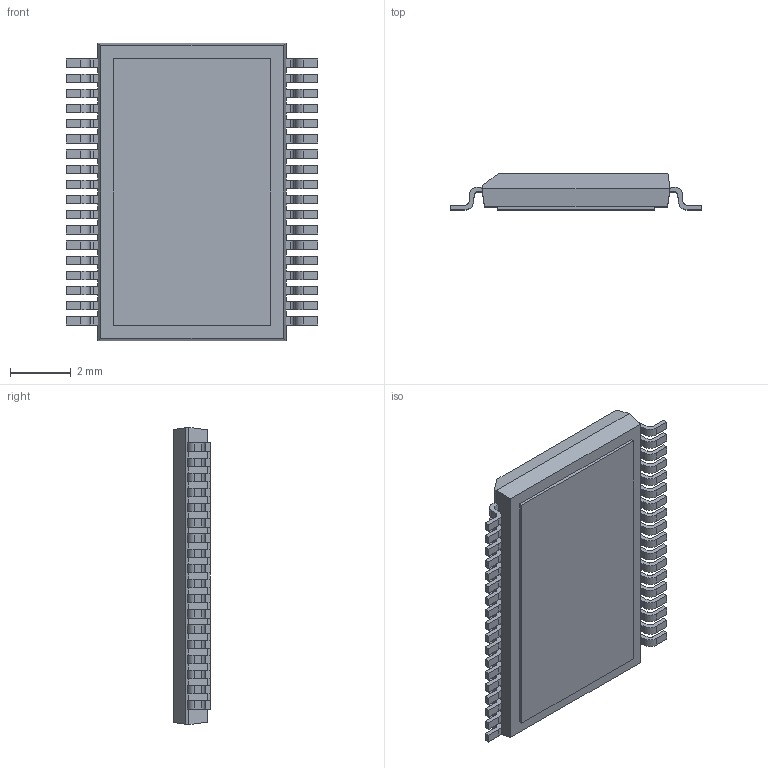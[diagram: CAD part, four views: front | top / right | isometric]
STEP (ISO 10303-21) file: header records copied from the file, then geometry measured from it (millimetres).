
FILE_DESCRIPTION (( 'STEP AP214' ), '1' );
FILE_NAME ('TSSOP50P810X120-36TP_MO-153.EBT.STEP', '2014-10-29T08:31:50', ( 'Tester2' ), ( '' ), 'SwSTEP 2.0', 'SolidWorks 2012', '' );
FILE_SCHEMA (( 'AUTOMOTIVE_DESIGN' ));
Length unit declared in the file: millimetre
Products named in the file (1): TSSOP50P810X120-36TP_MO-153.EBT
Bounding box: 8.3 x 1.2 x 9.8 mm (x, y, z)
Volume: 71.3 mm3; surface area: 196.9 mm2
Topology: 1 solids, 1 shells, 487 faces, 1445 edges, 962 vertices
Faces by surface type: plane 341, cylinder 146
Entity records: 21509 total; most frequent: CARTESIAN_POINT 2895, ORIENTED_EDGE 2890, DIRECTION 2713, EDGE_CURVE 1445, VECTOR 1153, LINE 1153, VERTEX_POINT 962, AXIS2_PLACEMENT_3D 780
